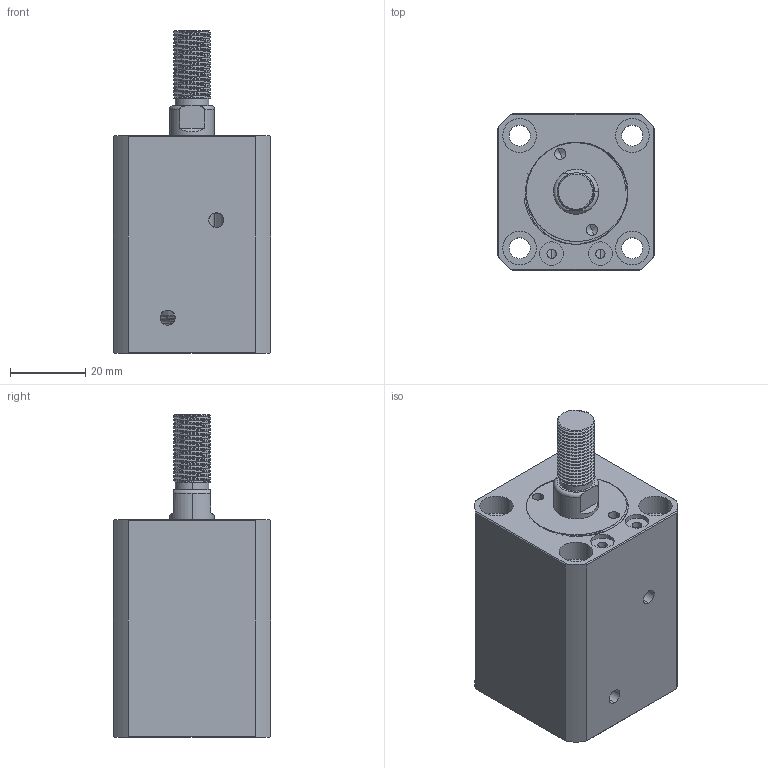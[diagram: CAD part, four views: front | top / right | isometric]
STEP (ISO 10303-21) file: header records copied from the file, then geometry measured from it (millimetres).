
FILE_DESCRIPTION (( 'STEP AP214' ), '1' );
FILE_NAME ('chtb-sdma20x15w_asm.STEP', '2018-05-18T04:15:30', ( 'Windows' ), ( 'Microsoft' ), 'SwSTEP 2.0', 'SolidWorks 2015', '' );
FILE_SCHEMA (( 'AUTOMOTIVE_DESIGN' ));
Length unit declared in the file: millimetre
Products named in the file (4): QG_3; CHTB-SDMA20X15WHSG; CHTB-SDMA20X15NBT; chtb-sdma20x15w_asm
Assembly tree (3 placements, depth 2):
  chtb-sdma20x15w_asm
    CHTB-SDMA20X15NBT
    CHTB-SDMA20X15WHSG
    QG_3
Bounding box: 42 x 42 x 86 mm (x, y, z)
Volume: 90428.6 mm3; surface area: 30225.9 mm2
Topology: 3 solids, 3 shells, 247 faces, 671 edges, 446 vertices
Faces by surface type: cylinder 144, plane 48, torus 25, bspline 23, cone 7
Entity records: 14895 total; most frequent: CARTESIAN_POINT 9018, ORIENTED_EDGE 1334, DIRECTION 1075, EDGE_CURVE 667, VERTEX_POINT 446, AXIS2_PLACEMENT_3D 441, EDGE_LOOP 285, ADVANCED_FACE 247
